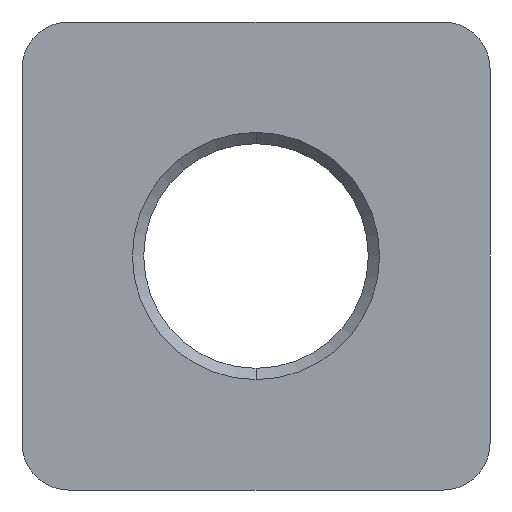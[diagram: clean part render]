
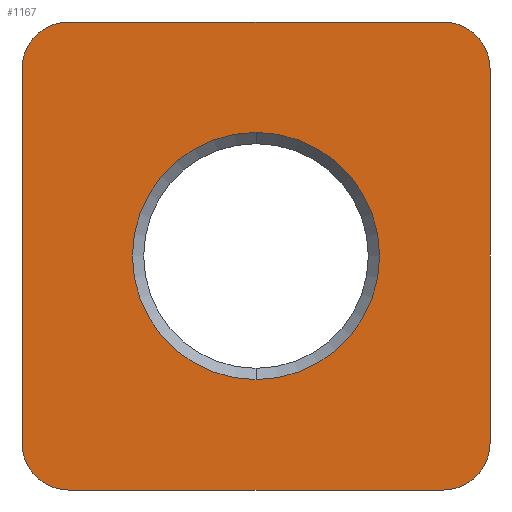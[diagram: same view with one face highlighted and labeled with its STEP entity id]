
A CAD part, front view. The second image highlights one B-rep face of the part: STEP entity #1167.
In plain terms, the highlighted planar face has unit normal (0, -1, 0).
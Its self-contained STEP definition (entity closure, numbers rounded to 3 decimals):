
#3 = EDGE_CURVE ( 'NONE', #80, #8, #410, .T. ) ;
#8 = VERTEX_POINT ( 'NONE', #401 ) ;
#71 = VERTEX_POINT ( 'NONE', #447 ) ;
#77 = EDGE_CURVE ( 'NONE', #71, #98, #497, .T. ) ;
#80 = VERTEX_POINT ( 'NONE', #485 ) ;
#92 = EDGE_CURVE ( 'NONE', #98, #80, #539, .T. ) ;
#93 = EDGE_CURVE ( 'NONE', #253, #355, #540, .T. ) ;
#98 = VERTEX_POINT ( 'NONE', #522 ) ;
#104 = EDGE_CURVE ( 'NONE', #355, #71, #513, .T. ) ;
#112 = ORIENTED_EDGE ( 'NONE', *, *, #93, .F. ) ;
#114 = ORIENTED_EDGE ( 'NONE', *, *, #104, .F. ) ;
#116 = ORIENTED_EDGE ( 'NONE', *, *, #77, .F. ) ;
#232 = VERTEX_POINT ( 'NONE', #758 ) ;
#234 = EDGE_CURVE ( 'NONE', #235, #232, #757, .T. ) ;
#235 = VERTEX_POINT ( 'NONE', #752 ) ;
#253 = VERTEX_POINT ( 'NONE', #783 ) ;
#347 = VERTEX_POINT ( 'NONE', #928 ) ;
#349 = EDGE_CURVE ( 'NONE', #347, #253, #927, .T. ) ;
#355 = VERTEX_POINT ( 'NONE', #976 ) ;
#401 = CARTESIAN_POINT ( 'NONE',  ( 25., 0., -20. ) ) ;
#407 = DIRECTION ( 'NONE',  ( 0., 0., -1. ) ) ;
#408 = VECTOR ( 'NONE', #407, 1000. ) ;
#409 = CARTESIAN_POINT ( 'NONE',  ( 25., 0., 20. ) ) ;
#410 = LINE ( 'NONE', #409, #408 ) ;
#447 = CARTESIAN_POINT ( 'NONE',  ( -20., 0., 25. ) ) ;
#485 = CARTESIAN_POINT ( 'NONE',  ( 25., 0., 20. ) ) ;
#494 = DIRECTION ( 'NONE',  ( 1., 0., 0. ) ) ;
#495 = VECTOR ( 'NONE', #494, 1000. ) ;
#496 = CARTESIAN_POINT ( 'NONE',  ( -20., 0., 25. ) ) ;
#497 = LINE ( 'NONE', #496, #495 ) ;
#513 = CIRCLE ( 'NONE', #571, 5. ) ;
#522 = CARTESIAN_POINT ( 'NONE',  ( 20., 0., 25. ) ) ;
#532 = DIRECTION ( 'NONE',  ( 0., 0., 1. ) ) ;
#533 = VECTOR ( 'NONE', #532, 1000. ) ;
#534 = CARTESIAN_POINT ( 'NONE',  ( -25., 0., 20. ) ) ;
#535 = DIRECTION ( 'NONE',  ( 0., 0., 1. ) ) ;
#536 = DIRECTION ( 'NONE',  ( 0., 1., 0. ) ) ;
#537 = CARTESIAN_POINT ( 'NONE',  ( 20., 0., 20. ) ) ;
#538 = AXIS2_PLACEMENT_3D ( 'NONE', #537, #536, #535 ) ;
#539 = CIRCLE ( 'NONE', #538, 5. ) ;
#540 = LINE ( 'NONE', #534, #533 ) ;
#568 = DIRECTION ( 'NONE',  ( 0., 0., -1. ) ) ;
#569 = DIRECTION ( 'NONE',  ( 0., 1., 0. ) ) ;
#570 = CARTESIAN_POINT ( 'NONE',  ( -20., 0., 20. ) ) ;
#571 = AXIS2_PLACEMENT_3D ( 'NONE', #570, #569, #568 ) ;
#752 = CARTESIAN_POINT ( 'NONE',  ( 0., 0., -13.2 ) ) ;
#753 = DIRECTION ( 'NONE',  ( 0., 0., 1. ) ) ;
#754 = DIRECTION ( 'NONE',  ( 0., 1., 0. ) ) ;
#755 = CARTESIAN_POINT ( 'NONE',  ( 0., 0., 0. ) ) ;
#756 = AXIS2_PLACEMENT_3D ( 'NONE', #755, #754, #753 ) ;
#757 = CIRCLE ( 'NONE', #756, 13.2 ) ;
#758 = CARTESIAN_POINT ( 'NONE',  ( 0., 0., 13.2 ) ) ;
#783 = CARTESIAN_POINT ( 'NONE',  ( -25., 0., -20. ) ) ;
#923 = DIRECTION ( 'NONE',  ( 0., 0., 1. ) ) ;
#924 = DIRECTION ( 'NONE',  ( 0., 1., 0. ) ) ;
#925 = CARTESIAN_POINT ( 'NONE',  ( -20., 0., -20. ) ) ;
#926 = AXIS2_PLACEMENT_3D ( 'NONE', #925, #924, #923 ) ;
#927 = CIRCLE ( 'NONE', #926, 5. ) ;
#928 = CARTESIAN_POINT ( 'NONE',  ( -20., 0., -25. ) ) ;
#976 = CARTESIAN_POINT ( 'NONE',  ( -25., 0., 20. ) ) ;
#1013 = CARTESIAN_POINT ( 'NONE',  ( 20., 0., -25. ) ) ;
#1025 = DIRECTION ( 'NONE',  ( 0., 0., -1. ) ) ;
#1026 = DIRECTION ( 'NONE',  ( 0., 1., 0. ) ) ;
#1027 = CARTESIAN_POINT ( 'NONE',  ( 20., 0., -20. ) ) ;
#1028 = AXIS2_PLACEMENT_3D ( 'NONE', #1027, #1026, #1025 ) ;
#1029 = CIRCLE ( 'NONE', #1028, 5. ) ;
#1051 = DIRECTION ( 'NONE',  ( 0., 0., 1. ) ) ;
#1052 = DIRECTION ( 'NONE',  ( 0., 1., 0. ) ) ;
#1053 = CARTESIAN_POINT ( 'NONE',  ( 0., 0., 0. ) ) ;
#1054 = AXIS2_PLACEMENT_3D ( 'NONE', #1053, #1052, #1051 ) ;
#1055 = DIRECTION ( 'NONE',  ( 0., 0., 1. ) ) ;
#1056 = DIRECTION ( 'NONE',  ( 0., 1., 0. ) ) ;
#1057 = CIRCLE ( 'NONE', #1054, 13.2 ) ;
#1058 = CARTESIAN_POINT ( 'NONE',  ( -20., 0., -20. ) ) ;
#1059 = AXIS2_PLACEMENT_3D ( 'NONE', #1058, #1056, #1055 ) ;
#1060 = PLANE ( 'NONE',  #1059 ) ;
#1061 = FACE_OUTER_BOUND ( 'NONE', #1163, .T. ) ;
#1062 = FACE_BOUND ( 'NONE', #1164, .T. ) ;
#1063 = DIRECTION ( 'NONE',  ( -1., 0., 0. ) ) ;
#1064 = VECTOR ( 'NONE', #1063, 1000. ) ;
#1065 = CARTESIAN_POINT ( 'NONE',  ( -20., 0., -25. ) ) ;
#1066 = LINE ( 'NONE', #1065, #1064 ) ;
#1138 = ORIENTED_EDGE ( 'NONE', *, *, #92, .F. ) ;
#1140 = ORIENTED_EDGE ( 'NONE', *, *, #3, .F. ) ;
#1154 = EDGE_CURVE ( 'NONE', #8, #1157, #1029, .T. ) ;
#1157 = VERTEX_POINT ( 'NONE', #1013 ) ;
#1159 = ORIENTED_EDGE ( 'NONE', *, *, #1154, .F. ) ;
#1161 = ORIENTED_EDGE ( 'NONE', *, *, #1166, .F. ) ;
#1162 = ORIENTED_EDGE ( 'NONE', *, *, #349, .F. ) ;
#1163 = EDGE_LOOP ( 'NONE', ( #1162, #1161, #1159, #1140, #1138, #116, #114, #112 ) ) ;
#1164 = EDGE_LOOP ( 'NONE', ( #1170, #1168 ) ) ;
#1166 = EDGE_CURVE ( 'NONE', #1157, #347, #1066, .T. ) ;
#1167 = ADVANCED_FACE ( 'NONE', ( #1062, #1061 ), #1060, .F. ) ;
#1168 = ORIENTED_EDGE ( 'NONE', *, *, #1169, .T. ) ;
#1169 = EDGE_CURVE ( 'NONE', #232, #235, #1057, .T. ) ;
#1170 = ORIENTED_EDGE ( 'NONE', *, *, #234, .T. ) ;
